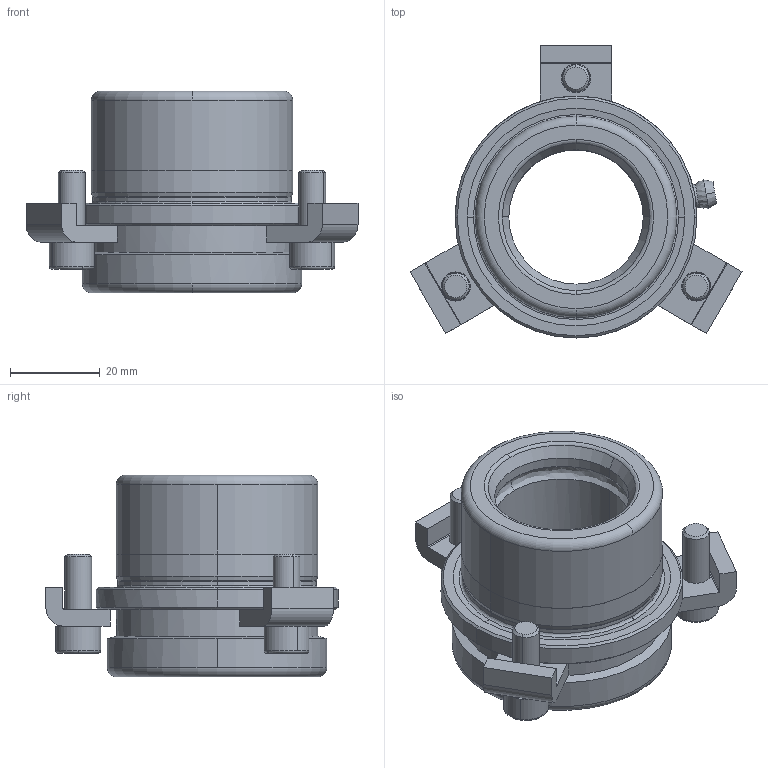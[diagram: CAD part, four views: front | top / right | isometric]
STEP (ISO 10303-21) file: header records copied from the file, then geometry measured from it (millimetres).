
FILE_DESCRIPTION((''),'2;1');
FILE_NAME('B10_030_020.stp','2008-11-06T08:36:33',(''),(''),'Mechanical Desktop 2009','Mechanical Desktop 2009',', , ');
FILE_SCHEMA(('CONFIG_CONTROL_DESIGN'));
Length unit declared in the file: millimetre
Products named in the file (2): Product; blmdl1
Assembly tree (1 placements, depth 2):
  Product
    blmdl1
Bounding box: 74.11 x 65.2 x 45 mm (x, y, z)
Volume: 49775.1 mm3; surface area: 19264.4 mm2
Topology: 8 solids, 8 shells, 170 faces, 454 edges, 301 vertices
Faces by surface type: plane 69, cylinder 49, cone 20, bspline 16, torus 16
Entity records: 6608 total; most frequent: CARTESIAN_POINT 2183, DIRECTION 944, ORIENTED_EDGE 900, EDGE_CURVE 450, AXIS2_PLACEMENT_3D 375, VERTEX_POINT 299, CIRCLE 219, VECTOR 194
